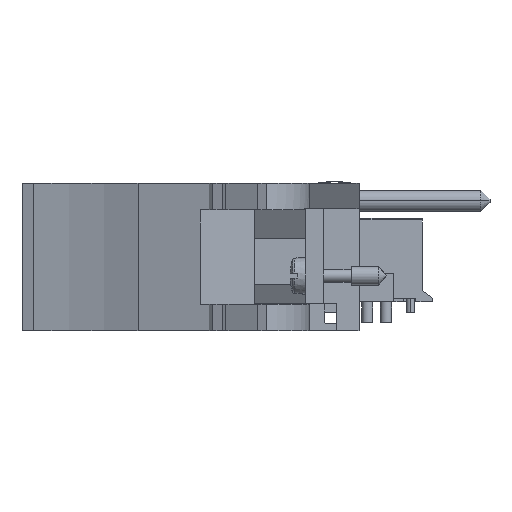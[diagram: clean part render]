
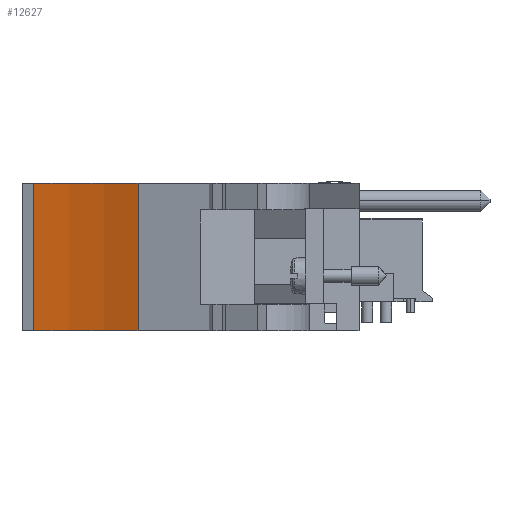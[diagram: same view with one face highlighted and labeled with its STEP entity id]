
A CAD part, front view. The second image highlights one B-rep face of the part: STEP entity #12627.
In plain terms, the highlighted cylindrical face has radius 51.46 mm (diameter 102.919 mm), a partial arc.
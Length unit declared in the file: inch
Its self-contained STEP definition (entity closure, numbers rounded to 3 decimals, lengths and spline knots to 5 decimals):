
#1949=CARTESIAN_POINT('',(-1.97678,-5.95043,0.69599));
#1950=DIRECTION('',(0.,0.,1.));
#1951=DIRECTION('',(0.435,0.9,0.));
#1952=AXIS2_PLACEMENT_3D('',#1949,#1950,#1951);
#2294=CARTESIAN_POINT('',(-1.97678,-5.95043,-0.09201));
#2295=DIRECTION('',(0.,0.,1.));
#2296=DIRECTION('',(0.435,0.9,0.));
#2297=AXIS2_PLACEMENT_3D('',#2294,#2295,#2296);
#2512=DIRECTION('',(0.,0.,1.));
#2513=VECTOR('',#2512,0.788);
#2514=CARTESIAN_POINT('',(-1.65345,-3.95043,-0.09201));
#2515=LINE('',#2514,#2513);
#2520=DIRECTION('',(0.,0.,1.));
#2521=VECTOR('',#2520,0.788);
#2522=CARTESIAN_POINT('',(-1.09548,-4.12619,
-0.09201));
#2523=LINE('',#2522,#2521);
#8881=CARTESIAN_POINT('',(-1.09548,-4.12619,
-0.09201));
#8882=CARTESIAN_POINT('',(-1.65345,-3.95043,-0.09201));
#8883=VERTEX_POINT('',#8881);
#8884=VERTEX_POINT('',#8882);
#8885=CARTESIAN_POINT('',(-1.09548,-4.12619,
0.69599));
#8886=CARTESIAN_POINT('',(-1.65345,-3.95043,0.69599));
#8887=VERTEX_POINT('',#8885);
#8888=VERTEX_POINT('',#8886);
#12615=CARTESIAN_POINT('',(-1.97678,-5.95043,0.69599));
#12616=DIRECTION('',(0.,0.,1.));
#12617=DIRECTION('',(0.,1.,0.));
#12618=AXIS2_PLACEMENT_3D('',#12615,#12616,#12617);
#12619=CYLINDRICAL_SURFACE('',#12618,2.02597);
#12620=ORIENTED_EDGE('',*,*,#12333,.T.);
#12621=ORIENTED_EDGE('',*,*,#12607,.T.);
#12622=ORIENTED_EDGE('',*,*,#11882,.F.);
#12624=ORIENTED_EDGE('',*,*,#12623,.F.);
#12625=EDGE_LOOP('',(#12620,#12621,#12622,#12624));
#12626=FACE_OUTER_BOUND('',#12625,.F.);
#12627=ADVANCED_FACE('',(#12626),#12619,.F.);
#1953=CIRCLE('',#1952,2.02597);
#2298=CIRCLE('',#2297,2.02597);
#11882=EDGE_CURVE('',#8887,#8888,#1953,.T.);
#12333=EDGE_CURVE('',#8883,#8884,#2298,.T.);
#12607=EDGE_CURVE('',#8884,#8888,#2515,.T.);
#12623=EDGE_CURVE('',#8883,#8887,#2523,.T.);
